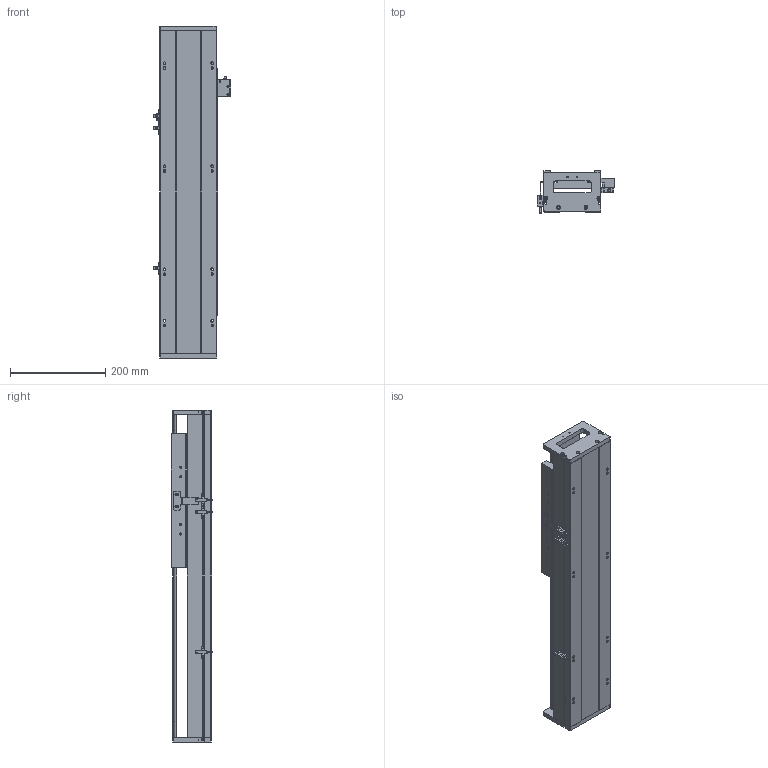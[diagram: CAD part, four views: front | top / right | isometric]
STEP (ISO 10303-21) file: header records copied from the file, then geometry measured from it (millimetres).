
FILE_DESCRIPTION (( 'STEP AP203' ), '1' );
FILE_NAME ('SKR12S-C2-S316（简）.STEP', '2022-09-26T03:12:09', ( '' ), ( '' ), 'SwSTEP 2.0', 'SolidWorks 2018', '' );
FILE_SCHEMA (( 'CONFIG_CONTROL_DESIGN' ));
Length unit declared in the file: millimetre
Products named in the file (8): SKR12S-C2-S316（简）; SKR12耜啣; SKR12菁釱-C2-S316(潠); 覜茼え; 棠掑假蚾輸; SKR12滑台-280L（简）; EE-SX672; SIKO棠掑
Assembly tree (10 placements, depth 2):
  SKR12S-C2-S316（简）
    SKR12菁釱-C2-S316(潠)
    SKR12滑台-280L（简）
    SKR12耜啣  x2
    棠掑假蚾輸
    SIKO棠掑
    EE-SX672  x3
    覜茼え
Bounding box: 162.7 x 87.3 x 696 mm (x, y, z)
Volume: 3624903.7 mm3; surface area: 605898.1 mm2
Topology: 11 solids, 11 shells, 932 faces, 2467 edges, 1561 vertices
Faces by surface type: cylinder 414, plane 392, cone 126
Entity records: 24869 total; most frequent: CARTESIAN_POINT 4763, DIRECTION 4167, ORIENTED_EDGE 3914, EDGE_CURVE 1957, AXIS2_PLACEMENT_3D 1533, VERTEX_POINT 1265, VECTOR 1101, LINE 1101
